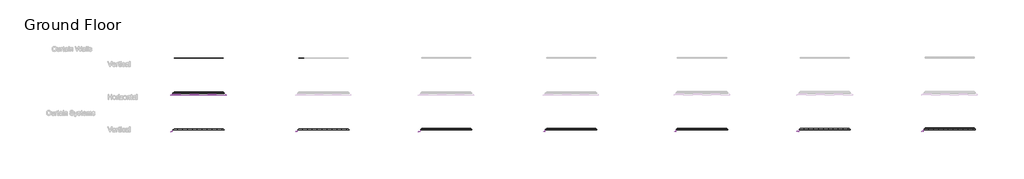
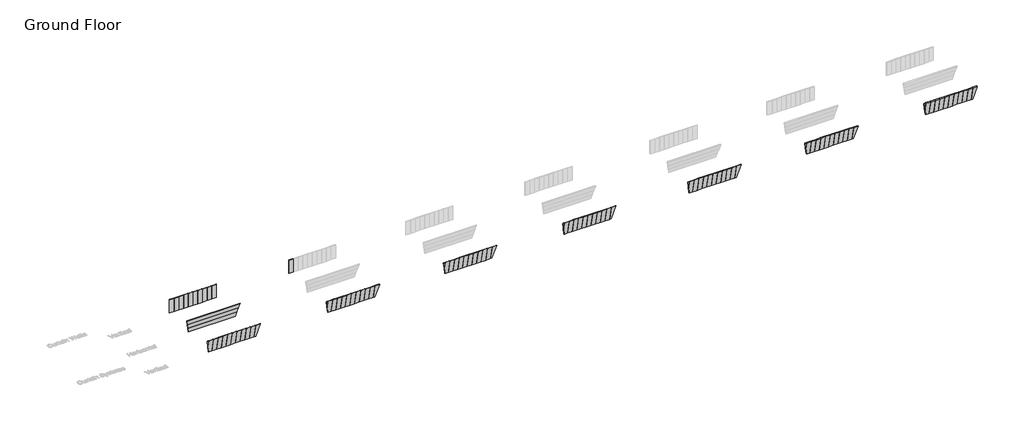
# One storey, part 1 of 12: 99 plates.
"""IFC4 building model written with IfcOpenShell, lengths in millimetres."""

from ifc_helpers import new_model, si_unit, origin, place, context, project, spatial, transform, mapped, element, save
from components import system_panel_713098a9, system_panel_15232523, system_panel_e1012d11, system_panel_ba92e759, system_panel_8d9bcd60, system_panel_b93e07dd, system_panel_ced8f9d4, system_panel_d58b1396, system_panel_276d5853, system_panel_b8428c64, system_panel_244e55d7, system_panel_0e52adfc, system_panel_2103b3a6, system_panel_ce3216b0, system_panel_0e282976, system_panel_e06f3d7a, system_panel_e961bc5a, system_panel_aa59b06d, system_panel_3f7d2aac, system_panel_99cabc98, system_panel_110e811f, system_panel_6bba82fc, system_panel_1b485f75, system_panel_cb7dd1a5, system_panel_cee82647, system_panel_2a0c4a62, system_panel_820816a4, system_panel_d4aeffd6, system_panel_145727ce, system_panel_42f74830, system_panel_000577c3, system_panel_8c28efb0, system_panel_4acd45eb, system_panel_72fa3ca7

model = new_model("IFC4")

# Units and contexts
model_context = context("Model", 3, world=origin())
ifc_project = project(units=[si_unit("LENGTHUNIT", "METRE", prefix="MILLI")], contexts=[model_context])

# Site, building, storey
site = spatial("IfcSite", under=ifc_project)
building = spatial("IfcBuilding", under=site)
storey = spatial("IfcBuildingStorey", under=building, Name="Ground Floor", Elevation=0.0)

# Plates
placement = place(None, origin())
system_panel_shape = system_panel_713098a9(model_context)
element("IfcPlate", 1, ObjectType="System Panel : Equitilt_50mm_Plain_Surfmist", at=placement, inside=storey, context=model_context, shape_type="MappedRepresentation", body=[
    mapped(system_panel_shape, transform((4729.2463003, 2025.9321053, 0.0), x_axis=(-1.0, 0.0, 0.0), y_axis=(0.0, -0.978268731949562, -0.20734099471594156), z_axis=(0.0, -0.20734099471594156, 0.978268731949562))),
])
system_panel_2_shape = system_panel_15232523(model_context)
element("IfcPlate", 2, ObjectType="System Panel : Equitilt_50mm_Plain_Surfmist", at=placement, inside=storey, context=model_context, shape_type="MappedRepresentation", body=[
    mapped(system_panel_2_shape, transform((4729.2463003, 1777.1229116, 1173.9224783), x_axis=(-1.0, 0.0, 0.0), y_axis=(0.0, -0.978268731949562, -0.20734099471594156), z_axis=(0.0, -0.20734099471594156, 0.978268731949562))),
])
system_panel_3_shape = system_panel_e1012d11(model_context)
element("IfcPlate", 3, ObjectType="System Panel : Equitilt_50mm_Plain_Surfmist", at=placement, inside=storey, context=model_context, shape_type="MappedRepresentation", body=[
    mapped(system_panel_3_shape, transform((4729.2463003, 1528.313718, 2347.8449567), x_axis=(-1.0, 0.0, 0.0), y_axis=(0.0, -0.978268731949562, -0.20734099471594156), z_axis=(0.0, -0.20734099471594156, 0.978268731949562))),
])
system_panel_4_shape = system_panel_ba92e759(model_context)
element("IfcPlate", 4, ObjectType="System Panel : Equitilt_50mm_Plain_Surfmist", at=placement, inside=storey, context=model_context, shape_type="MappedRepresentation", body=[
    mapped(system_panel_4_shape, transform((4729.2463003, 1279.5045243, 3521.767435), x_axis=(-1.0, 0.0, 0.0), y_axis=(0.0, -0.978268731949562, -0.20734099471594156), z_axis=(0.0, -0.20734099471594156, 0.978268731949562))),
])
system_panel_5_shape = system_panel_8d9bcd60(model_context)
element("IfcPlate", 5, ObjectType="System Panel : Equitilt_50mm_Plain_Surfmist", at=placement, inside=storey, context=model_context, shape_type="MappedRepresentation", body=[
    mapped(system_panel_5_shape, transform((10929.2463003, -6974.0678947, 0.0), x_axis=(-1.0, 0.0, 0.0), y_axis=(0.0, -0.978268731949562, -0.20734099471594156), z_axis=(0.0, -0.20734099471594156, 0.978268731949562))),
])
system_panel_6_shape = system_panel_b93e07dd(model_context)
element("IfcPlate", 6, ObjectType="System Panel : Equitilt_50mm_Plain_Surfmist", at=placement, inside=storey, context=model_context, shape_type="MappedRepresentation", body=[
    mapped(system_panel_6_shape, transform((9729.2463003, -6974.0678947, 0.0), x_axis=(-1.0, 0.0, 0.0), y_axis=(0.0, -0.978268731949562, -0.20734099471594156), z_axis=(0.0, -0.20734099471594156, 0.978268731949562))),
])
element("IfcPlate", 7, ObjectType="System Panel : Equitilt_50mm_Plain_Surfmist", at=placement, inside=storey, context=model_context, shape_type="MappedRepresentation", body=[
    mapped(system_panel_6_shape, transform((8529.2463003, -6974.0678947, 0.0), x_axis=(-1.0, 0.0, 0.0), y_axis=(0.0, -0.978268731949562, -0.20734099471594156), z_axis=(0.0, -0.20734099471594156, 0.978268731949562))),
])
element("IfcPlate", 8, ObjectType="System Panel : Equitilt_50mm_Plain_Surfmist", at=placement, inside=storey, context=model_context, shape_type="MappedRepresentation", body=[
    mapped(system_panel_6_shape, transform((7329.2463003, -6974.0678947, 0.0), x_axis=(-1.0, 0.0, 0.0), y_axis=(0.0, -0.978268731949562, -0.20734099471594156), z_axis=(0.0, -0.20734099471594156, 0.978268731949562))),
])
element("IfcPlate", 9, ObjectType="System Panel : Equitilt_50mm_Plain_Surfmist", at=placement, inside=storey, context=model_context, shape_type="MappedRepresentation", body=[
    mapped(system_panel_6_shape, transform((6129.2463003, -6974.0678947, 0.0), x_axis=(-1.0, 0.0, 0.0), y_axis=(0.0, -0.978268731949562, -0.20734099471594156), z_axis=(0.0, -0.20734099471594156, 0.978268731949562))),
])
element("IfcPlate", 10, ObjectType="System Panel : Equitilt_50mm_Plain_Surfmist", at=placement, inside=storey, context=model_context, shape_type="MappedRepresentation", body=[
    mapped(system_panel_6_shape, transform((4929.2463003, -6974.0678947, 0.0), x_axis=(-1.0, 0.0, 0.0), y_axis=(0.0, -0.978268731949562, -0.20734099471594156), z_axis=(0.0, -0.20734099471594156, 0.978268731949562))),
])
element("IfcPlate", 11, ObjectType="System Panel : Equitilt_50mm_Plain_Surfmist", at=placement, inside=storey, context=model_context, shape_type="MappedRepresentation", body=[
    mapped(system_panel_6_shape, transform((3729.2463003, -6974.0678947, 0.0), x_axis=(-1.0, 0.0, 0.0), y_axis=(0.0, -0.978268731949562, -0.20734099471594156), z_axis=(0.0, -0.20734099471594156, 0.978268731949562))),
])
element("IfcPlate", 12, ObjectType="System Panel : Equitilt_50mm_Plain_Surfmist", at=placement, inside=storey, context=model_context, shape_type="MappedRepresentation", body=[
    mapped(system_panel_6_shape, transform((2529.2463003, -6974.0678947, 0.0), x_axis=(-1.0, 0.0, 0.0), y_axis=(0.0, -0.978268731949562, -0.20734099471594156), z_axis=(0.0, -0.20734099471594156, 0.978268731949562))),
])
element("IfcPlate", 13, ObjectType="System Panel : Equitilt_50mm_Plain_Surfmist", at=placement, inside=storey, context=model_context, shape_type="MappedRepresentation", body=[
    mapped(system_panel_6_shape, transform((1329.2463003, -6974.0678947, 0.0), x_axis=(-1.0, 0.0, 0.0), y_axis=(0.0, -0.978268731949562, -0.20734099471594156), z_axis=(0.0, -0.20734099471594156, 0.978268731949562))),
])
element("IfcPlate", 14, ObjectType="System Panel : Equitilt_50mm_Plain_Surfmist", at=placement, inside=storey, context=model_context, shape_type="MappedRepresentation", body=[
    mapped(system_panel_6_shape, transform((129.2463003, -6974.0678947, 0.0), x_axis=(-1.0, 0.0, 0.0), y_axis=(0.0, -0.978268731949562, -0.20734099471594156), z_axis=(0.0, -0.20734099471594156, 0.978268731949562))),
])
system_panel_7_shape = system_panel_ced8f9d4(model_context)
element("IfcPlate", 15, ObjectType="System Panel : Equitilt_50mm_Plain_Surfmist", at=placement, inside=storey, context=model_context, shape_type="MappedRepresentation", body=[
    mapped(system_panel_7_shape, transform((-1070.7536997, -6974.0678947, 0.0), x_axis=(-1.0, 0.0, 0.0), y_axis=(0.0, -0.978268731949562, -0.20734099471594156), z_axis=(0.0, -0.20734099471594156, 0.978268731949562))),
])
system_panel_8_shape = system_panel_d58b1396(model_context)
element("IfcPlate", 16, ObjectType="System Panel : Equitilt_50mm_Plain_Surfmist", at=placement, inside=storey, context=model_context, shape_type="MappedRepresentation", body=[
    mapped(system_panel_8_shape, transform((-1870.7536997, -7355.5722588, 1800.0), x_axis=(-1.0, 0.0, 0.0), y_axis=(0.0, -0.978268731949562, -0.20734099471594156), z_axis=(0.0, -0.20734099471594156, 0.978268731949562))),
])
system_panel_9_shape = system_panel_276d5853(model_context)
element("IfcPlate", 17, ObjectType="System Panel : Equitilt_75mm_Plain_Surfmist", at=placement, inside=storey, context=model_context, shape_type="MappedRepresentation", body=[
    mapped(system_panel_9_shape, transform((41429.2463003, -6974.0678947, 0.0), x_axis=(-1.0, 0.0, 0.0), y_axis=(0.0, -0.978268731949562, -0.20734099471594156), z_axis=(0.0, -0.20734099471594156, 0.978268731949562))),
])
system_panel_10_shape = system_panel_b8428c64(model_context)
element("IfcPlate", 18, ObjectType="System Panel : Equitilt_75mm_Plain_Surfmist", at=placement, inside=storey, context=model_context, shape_type="MappedRepresentation", body=[
    mapped(system_panel_10_shape, transform((40229.2463003, -6974.0678947, 0.0), x_axis=(-1.0, 0.0, 0.0), y_axis=(0.0, -0.978268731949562, -0.20734099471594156), z_axis=(0.0, -0.20734099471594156, 0.978268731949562))),
])
element("IfcPlate", 19, ObjectType="System Panel : Equitilt_75mm_Plain_Surfmist", at=placement, inside=storey, context=model_context, shape_type="MappedRepresentation", body=[
    mapped(system_panel_10_shape, transform((39029.2463003, -6974.0678947, 0.0), x_axis=(-1.0, 0.0, 0.0), y_axis=(0.0, -0.978268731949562, -0.20734099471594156), z_axis=(0.0, -0.20734099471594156, 0.978268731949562))),
])
element("IfcPlate", 20, ObjectType="System Panel : Equitilt_75mm_Plain_Surfmist", at=placement, inside=storey, context=model_context, shape_type="MappedRepresentation", body=[
    mapped(system_panel_10_shape, transform((37829.2463003, -6974.0678947, 0.0), x_axis=(-1.0, 0.0, 0.0), y_axis=(0.0, -0.978268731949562, -0.20734099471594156), z_axis=(0.0, -0.20734099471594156, 0.978268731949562))),
])
element("IfcPlate", 21, ObjectType="System Panel : Equitilt_75mm_Plain_Surfmist", at=placement, inside=storey, context=model_context, shape_type="MappedRepresentation", body=[
    mapped(system_panel_10_shape, transform((36629.2463003, -6974.0678947, 0.0), x_axis=(-1.0, 0.0, 0.0), y_axis=(0.0, -0.978268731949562, -0.20734099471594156), z_axis=(0.0, -0.20734099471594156, 0.978268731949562))),
])
element("IfcPlate", 22, ObjectType="System Panel : Equitilt_75mm_Plain_Surfmist", at=placement, inside=storey, context=model_context, shape_type="MappedRepresentation", body=[
    mapped(system_panel_10_shape, transform((35429.2463003, -6974.0678947, 0.0), x_axis=(-1.0, 0.0, 0.0), y_axis=(0.0, -0.978268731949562, -0.20734099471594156), z_axis=(0.0, -0.20734099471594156, 0.978268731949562))),
])
element("IfcPlate", 23, ObjectType="System Panel : Equitilt_75mm_Plain_Surfmist", at=placement, inside=storey, context=model_context, shape_type="MappedRepresentation", body=[
    mapped(system_panel_10_shape, transform((34229.2463003, -6974.0678947, 0.0), x_axis=(-1.0, 0.0, 0.0), y_axis=(0.0, -0.978268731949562, -0.20734099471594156), z_axis=(0.0, -0.20734099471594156, 0.978268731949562))),
])
element("IfcPlate", 24, ObjectType="System Panel : Equitilt_75mm_Plain_Surfmist", at=placement, inside=storey, context=model_context, shape_type="MappedRepresentation", body=[
    mapped(system_panel_10_shape, transform((33029.2463003, -6974.0678947, 0.0), x_axis=(-1.0, 0.0, 0.0), y_axis=(0.0, -0.978268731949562, -0.20734099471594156), z_axis=(0.0, -0.20734099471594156, 0.978268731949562))),
])
element("IfcPlate", 25, ObjectType="System Panel : Equitilt_75mm_Plain_Surfmist", at=placement, inside=storey, context=model_context, shape_type="MappedRepresentation", body=[
    mapped(system_panel_10_shape, transform((31829.2463003, -6974.0678947, 0.0), x_axis=(-1.0, 0.0, 0.0), y_axis=(0.0, -0.978268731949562, -0.20734099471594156), z_axis=(0.0, -0.20734099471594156, 0.978268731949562))),
])
element("IfcPlate", 26, ObjectType="System Panel : Equitilt_75mm_Plain_Surfmist", at=placement, inside=storey, context=model_context, shape_type="MappedRepresentation", body=[
    mapped(system_panel_10_shape, transform((30629.2463003, -6974.0678947, 0.0), x_axis=(-1.0, 0.0, 0.0), y_axis=(0.0, -0.978268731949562, -0.20734099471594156), z_axis=(0.0, -0.20734099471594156, 0.978268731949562))),
])
system_panel_11_shape = system_panel_244e55d7(model_context)
element("IfcPlate", 27, ObjectType="System Panel : Equitilt_75mm_Plain_Surfmist", at=placement, inside=storey, context=model_context, shape_type="MappedRepresentation", body=[
    mapped(system_panel_11_shape, transform((29429.2463003, -6974.0678947, 0.0), x_axis=(-1.0, 0.0, 0.0), y_axis=(0.0, -0.978268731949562, -0.20734099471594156), z_axis=(0.0, -0.20734099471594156, 0.978268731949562))),
])
system_panel_12_shape = system_panel_0e52adfc(model_context)
element("IfcPlate", 28, ObjectType="System Panel : Equitilt_75mm_Plain_Surfmist", at=placement, inside=storey, context=model_context, shape_type="MappedRepresentation", body=[
    mapped(system_panel_12_shape, transform((28629.2463003, -7355.5722588, 1800.0), x_axis=(-1.0, 0.0, 0.0), y_axis=(0.0, -0.978268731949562, -0.20734099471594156), z_axis=(0.0, -0.20734099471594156, 0.978268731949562))),
])
system_panel_13_shape = system_panel_2103b3a6(model_context)
element("IfcPlate", 29, ObjectType="System Panel : Equitilt_100mm_Plain_Surfmist", at=placement, inside=storey, context=model_context, shape_type="MappedRepresentation", body=[
    mapped(system_panel_13_shape, transform((71429.2463003, -6974.0678947, 0.0), x_axis=(-1.0, 0.0, 0.0), y_axis=(0.0, -0.978268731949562, -0.20734099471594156), z_axis=(0.0, -0.20734099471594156, 0.978268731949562))),
])
system_panel_14_shape = system_panel_ce3216b0(model_context)
element("IfcPlate", 30, ObjectType="System Panel : Equitilt_100mm_Plain_Surfmist", at=placement, inside=storey, context=model_context, shape_type="MappedRepresentation", body=[
    mapped(system_panel_14_shape, transform((70229.2463003, -6974.0678947, 0.0), x_axis=(-1.0, 0.0, 0.0), y_axis=(0.0, -0.978268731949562, -0.20734099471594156), z_axis=(0.0, -0.20734099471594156, 0.978268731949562))),
])
element("IfcPlate", 31, ObjectType="System Panel : Equitilt_100mm_Plain_Surfmist", at=placement, inside=storey, context=model_context, shape_type="MappedRepresentation", body=[
    mapped(system_panel_14_shape, transform((69029.2463003, -6974.0678947, 0.0), x_axis=(-1.0, 0.0, 0.0), y_axis=(0.0, -0.978268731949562, -0.20734099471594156), z_axis=(0.0, -0.20734099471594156, 0.978268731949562))),
])
element("IfcPlate", 32, ObjectType="System Panel : Equitilt_100mm_Plain_Surfmist", at=placement, inside=storey, context=model_context, shape_type="MappedRepresentation", body=[
    mapped(system_panel_14_shape, transform((67829.2463003, -6974.0678947, 0.0), x_axis=(-1.0, 0.0, 0.0), y_axis=(0.0, -0.978268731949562, -0.20734099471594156), z_axis=(0.0, -0.20734099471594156, 0.978268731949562))),
])
element("IfcPlate", 33, ObjectType="System Panel : Equitilt_100mm_Plain_Surfmist", at=placement, inside=storey, context=model_context, shape_type="MappedRepresentation", body=[
    mapped(system_panel_14_shape, transform((66629.2463003, -6974.0678947, 0.0), x_axis=(-1.0, 0.0, 0.0), y_axis=(0.0, -0.978268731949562, -0.20734099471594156), z_axis=(0.0, -0.20734099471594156, 0.978268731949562))),
])
element("IfcPlate", 34, ObjectType="System Panel : Equitilt_100mm_Plain_Surfmist", at=placement, inside=storey, context=model_context, shape_type="MappedRepresentation", body=[
    mapped(system_panel_14_shape, transform((65429.2463003, -6974.0678947, 0.0), x_axis=(-1.0, 0.0, 0.0), y_axis=(0.0, -0.978268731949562, -0.20734099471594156), z_axis=(0.0, -0.20734099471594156, 0.978268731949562))),
])
element("IfcPlate", 35, ObjectType="System Panel : Equitilt_100mm_Plain_Surfmist", at=placement, inside=storey, context=model_context, shape_type="MappedRepresentation", body=[
    mapped(system_panel_14_shape, transform((64229.2463003, -6974.0678947, 0.0), x_axis=(-1.0, 0.0, 0.0), y_axis=(0.0, -0.978268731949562, -0.20734099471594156), z_axis=(0.0, -0.20734099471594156, 0.978268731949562))),
])
element("IfcPlate", 36, ObjectType="System Panel : Equitilt_100mm_Plain_Surfmist", at=placement, inside=storey, context=model_context, shape_type="MappedRepresentation", body=[
    mapped(system_panel_14_shape, transform((63029.2463003, -6974.0678947, 0.0), x_axis=(-1.0, 0.0, 0.0), y_axis=(0.0, -0.978268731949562, -0.20734099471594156), z_axis=(0.0, -0.20734099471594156, 0.978268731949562))),
])
element("IfcPlate", 37, ObjectType="System Panel : Equitilt_100mm_Plain_Surfmist", at=placement, inside=storey, context=model_context, shape_type="MappedRepresentation", body=[
    mapped(system_panel_14_shape, transform((61829.2463003, -6974.0678947, 0.0), x_axis=(-1.0, 0.0, 0.0), y_axis=(0.0, -0.978268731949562, -0.20734099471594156), z_axis=(0.0, -0.20734099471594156, 0.978268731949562))),
])
element("IfcPlate", 38, ObjectType="System Panel : Equitilt_100mm_Plain_Surfmist", at=placement, inside=storey, context=model_context, shape_type="MappedRepresentation", body=[
    mapped(system_panel_14_shape, transform((60629.2463003, -6974.0678947, 0.0), x_axis=(-1.0, 0.0, 0.0), y_axis=(0.0, -0.978268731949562, -0.20734099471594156), z_axis=(0.0, -0.20734099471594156, 0.978268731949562))),
])
system_panel_15_shape = system_panel_0e282976(model_context)
element("IfcPlate", 39, ObjectType="System Panel : Equitilt_100mm_Plain_Surfmist", at=placement, inside=storey, context=model_context, shape_type="MappedRepresentation", body=[
    mapped(system_panel_15_shape, transform((59429.2463003, -6974.0678947, 0.0), x_axis=(-1.0, 0.0, 0.0), y_axis=(0.0, -0.978268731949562, -0.20734099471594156), z_axis=(0.0, -0.20734099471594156, 0.978268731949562))),
])
system_panel_16_shape = system_panel_e06f3d7a(model_context)
element("IfcPlate", 40, ObjectType="System Panel : Equitilt_100mm_Plain_Surfmist", at=placement, inside=storey, context=model_context, shape_type="MappedRepresentation", body=[
    mapped(system_panel_16_shape, transform((58629.2463003, -7355.5722588, 1800.0), x_axis=(-1.0, 0.0, 0.0), y_axis=(0.0, -0.978268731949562, -0.20734099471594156), z_axis=(0.0, -0.20734099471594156, 0.978268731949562))),
])
system_panel_17_shape = system_panel_e961bc5a(model_context)
element("IfcPlate", 41, ObjectType="System Panel : Equitilt_125mm_Plain_Surfmist", at=placement, inside=storey, context=model_context, shape_type="MappedRepresentation", body=[
    mapped(system_panel_17_shape, transform((101929.2463003, -6974.0678947, 0.0), x_axis=(-1.0, 0.0, 0.0), y_axis=(0.0, -0.978268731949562, -0.20734099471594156), z_axis=(0.0, -0.20734099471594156, 0.978268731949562))),
])
system_panel_18_shape = system_panel_aa59b06d(model_context)
element("IfcPlate", 42, ObjectType="System Panel : Equitilt_125mm_Plain_Surfmist", at=placement, inside=storey, context=model_context, shape_type="MappedRepresentation", body=[
    mapped(system_panel_18_shape, transform((100729.2463003, -6974.0678947, 0.0), x_axis=(-1.0, 0.0, 0.0), y_axis=(0.0, -0.978268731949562, -0.20734099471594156), z_axis=(0.0, -0.20734099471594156, 0.978268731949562))),
])
element("IfcPlate", 43, ObjectType="System Panel : Equitilt_125mm_Plain_Surfmist", at=placement, inside=storey, context=model_context, shape_type="MappedRepresentation", body=[
    mapped(system_panel_18_shape, transform((99529.2463003, -6974.0678947, 0.0), x_axis=(-1.0, 0.0, 0.0), y_axis=(0.0, -0.978268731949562, -0.20734099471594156), z_axis=(0.0, -0.20734099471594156, 0.978268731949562))),
])
element("IfcPlate", 44, ObjectType="System Panel : Equitilt_125mm_Plain_Surfmist", at=placement, inside=storey, context=model_context, shape_type="MappedRepresentation", body=[
    mapped(system_panel_18_shape, transform((98329.2463003, -6974.0678947, 0.0), x_axis=(-1.0, 0.0, 0.0), y_axis=(0.0, -0.978268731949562, -0.20734099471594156), z_axis=(0.0, -0.20734099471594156, 0.978268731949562))),
])
element("IfcPlate", 45, ObjectType="System Panel : Equitilt_125mm_Plain_Surfmist", at=placement, inside=storey, context=model_context, shape_type="MappedRepresentation", body=[
    mapped(system_panel_18_shape, transform((97129.2463003, -6974.0678947, 0.0), x_axis=(-1.0, 0.0, 0.0), y_axis=(0.0, -0.978268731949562, -0.20734099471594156), z_axis=(0.0, -0.20734099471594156, 0.978268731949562))),
])
element("IfcPlate", 46, ObjectType="System Panel : Equitilt_125mm_Plain_Surfmist", at=placement, inside=storey, context=model_context, shape_type="MappedRepresentation", body=[
    mapped(system_panel_18_shape, transform((95929.2463003, -6974.0678947, 0.0), x_axis=(-1.0, 0.0, 0.0), y_axis=(0.0, -0.978268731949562, -0.20734099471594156), z_axis=(0.0, -0.20734099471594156, 0.978268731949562))),
])
element("IfcPlate", 47, ObjectType="System Panel : Equitilt_125mm_Plain_Surfmist", at=placement, inside=storey, context=model_context, shape_type="MappedRepresentation", body=[
    mapped(system_panel_18_shape, transform((94729.2463003, -6974.0678947, 0.0), x_axis=(-1.0, 0.0, 0.0), y_axis=(0.0, -0.978268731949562, -0.20734099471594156), z_axis=(0.0, -0.20734099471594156, 0.978268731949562))),
])
element("IfcPlate", 48, ObjectType="System Panel : Equitilt_125mm_Plain_Surfmist", at=placement, inside=storey, context=model_context, shape_type="MappedRepresentation", body=[
    mapped(system_panel_18_shape, transform((93529.2463003, -6974.0678947, 0.0), x_axis=(-1.0, 0.0, 0.0), y_axis=(0.0, -0.978268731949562, -0.20734099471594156), z_axis=(0.0, -0.20734099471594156, 0.978268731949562))),
])
element("IfcPlate", 49, ObjectType="System Panel : Equitilt_125mm_Plain_Surfmist", at=placement, inside=storey, context=model_context, shape_type="MappedRepresentation", body=[
    mapped(system_panel_18_shape, transform((92329.2463003, -6974.0678947, 0.0), x_axis=(-1.0, 0.0, 0.0), y_axis=(0.0, -0.978268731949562, -0.20734099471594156), z_axis=(0.0, -0.20734099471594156, 0.978268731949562))),
])
element("IfcPlate", 50, ObjectType="System Panel : Equitilt_125mm_Plain_Surfmist", at=placement, inside=storey, context=model_context, shape_type="MappedRepresentation", body=[
    mapped(system_panel_18_shape, transform((91129.2463003, -6974.0678947, 0.0), x_axis=(-1.0, 0.0, 0.0), y_axis=(0.0, -0.978268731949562, -0.20734099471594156), z_axis=(0.0, -0.20734099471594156, 0.978268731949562))),
])
system_panel_19_shape = system_panel_3f7d2aac(model_context)
element("IfcPlate", 51, ObjectType="System Panel : Equitilt_125mm_Plain_Surfmist", at=placement, inside=storey, context=model_context, shape_type="MappedRepresentation", body=[
    mapped(system_panel_19_shape, transform((89929.2463003, -6974.0678947, 0.0), x_axis=(-1.0, 0.0, 0.0), y_axis=(0.0, -0.978268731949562, -0.20734099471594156), z_axis=(0.0, -0.20734099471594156, 0.978268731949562))),
])
system_panel_20_shape = system_panel_99cabc98(model_context)
element("IfcPlate", 52, ObjectType="System Panel : Equitilt_125mm_Plain_Surfmist", at=placement, inside=storey, context=model_context, shape_type="MappedRepresentation", body=[
    mapped(system_panel_20_shape, transform((89129.2463003, -7355.5722588, 1800.0), x_axis=(-1.0, 0.0, 0.0), y_axis=(0.0, -0.978268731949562, -0.20734099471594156), z_axis=(0.0, -0.20734099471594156, 0.978268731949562))),
])
system_panel_21_shape = system_panel_110e811f(model_context)
element("IfcPlate", 53, ObjectType="System Panel : Equitilt_150mm_Plain_Surfmist", at=placement, inside=storey, context=model_context, shape_type="MappedRepresentation", body=[
    mapped(system_panel_21_shape, transform((133929.2463003, -6974.0678947, 0.0), x_axis=(-1.0, 0.0, 0.0), y_axis=(0.0, -0.978268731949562, -0.20734099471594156), z_axis=(0.0, -0.20734099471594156, 0.978268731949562))),
])
system_panel_22_shape = system_panel_6bba82fc(model_context)
element("IfcPlate", 54, ObjectType="System Panel : Equitilt_150mm_Plain_Surfmist", at=placement, inside=storey, context=model_context, shape_type="MappedRepresentation", body=[
    mapped(system_panel_22_shape, transform((132729.2463003, -6974.0678947, 0.0), x_axis=(-1.0, 0.0, 0.0), y_axis=(0.0, -0.978268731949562, -0.20734099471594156), z_axis=(0.0, -0.20734099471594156, 0.978268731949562))),
])
element("IfcPlate", 55, ObjectType="System Panel : Equitilt_150mm_Plain_Surfmist", at=placement, inside=storey, context=model_context, shape_type="MappedRepresentation", body=[
    mapped(system_panel_22_shape, transform((131529.2463003, -6974.0678947, 0.0), x_axis=(-1.0, 0.0, 0.0), y_axis=(0.0, -0.978268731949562, -0.20734099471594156), z_axis=(0.0, -0.20734099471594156, 0.978268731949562))),
])
element("IfcPlate", 56, ObjectType="System Panel : Equitilt_150mm_Plain_Surfmist", at=placement, inside=storey, context=model_context, shape_type="MappedRepresentation", body=[
    mapped(system_panel_22_shape, transform((130329.2463003, -6974.0678947, 0.0), x_axis=(-1.0, 0.0, 0.0), y_axis=(0.0, -0.978268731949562, -0.20734099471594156), z_axis=(0.0, -0.20734099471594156, 0.978268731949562))),
])
element("IfcPlate", 57, ObjectType="System Panel : Equitilt_150mm_Plain_Surfmist", at=placement, inside=storey, context=model_context, shape_type="MappedRepresentation", body=[
    mapped(system_panel_22_shape, transform((129129.2463003, -6974.0678947, 0.0), x_axis=(-1.0, 0.0, 0.0), y_axis=(0.0, -0.978268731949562, -0.20734099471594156), z_axis=(0.0, -0.20734099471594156, 0.978268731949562))),
])
element("IfcPlate", 58, ObjectType="System Panel : Equitilt_150mm_Plain_Surfmist", at=placement, inside=storey, context=model_context, shape_type="MappedRepresentation", body=[
    mapped(system_panel_22_shape, transform((127929.2463003, -6974.0678947, 0.0), x_axis=(-1.0, 0.0, 0.0), y_axis=(0.0, -0.978268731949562, -0.20734099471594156), z_axis=(0.0, -0.20734099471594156, 0.978268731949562))),
])
element("IfcPlate", 59, ObjectType="System Panel : Equitilt_150mm_Plain_Surfmist", at=placement, inside=storey, context=model_context, shape_type="MappedRepresentation", body=[
    mapped(system_panel_22_shape, transform((126729.2463003, -6974.0678947, 0.0), x_axis=(-1.0, 0.0, 0.0), y_axis=(0.0, -0.978268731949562, -0.20734099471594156), z_axis=(0.0, -0.20734099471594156, 0.978268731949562))),
])
element("IfcPlate", 60, ObjectType="System Panel : Equitilt_150mm_Plain_Surfmist", at=placement, inside=storey, context=model_context, shape_type="MappedRepresentation", body=[
    mapped(system_panel_22_shape, transform((125529.2463003, -6974.0678947, 0.0), x_axis=(-1.0, 0.0, 0.0), y_axis=(0.0, -0.978268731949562, -0.20734099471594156), z_axis=(0.0, -0.20734099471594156, 0.978268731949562))),
])
element("IfcPlate", 61, ObjectType="System Panel : Equitilt_150mm_Plain_Surfmist", at=placement, inside=storey, context=model_context, shape_type="MappedRepresentation", body=[
    mapped(system_panel_22_shape, transform((124329.2463003, -6974.0678947, 0.0), x_axis=(-1.0, 0.0, 0.0), y_axis=(0.0, -0.978268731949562, -0.20734099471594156), z_axis=(0.0, -0.20734099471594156, 0.978268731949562))),
])
element("IfcPlate", 62, ObjectType="System Panel : Equitilt_150mm_Plain_Surfmist", at=placement, inside=storey, context=model_context, shape_type="MappedRepresentation", body=[
    mapped(system_panel_22_shape, transform((123129.2463003, -6974.0678947, 0.0), x_axis=(-1.0, 0.0, 0.0), y_axis=(0.0, -0.978268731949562, -0.20734099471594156), z_axis=(0.0, -0.20734099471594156, 0.978268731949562))),
])
system_panel_23_shape = system_panel_1b485f75(model_context)
element("IfcPlate", 63, ObjectType="System Panel : Equitilt_150mm_Plain_Surfmist", at=placement, inside=storey, context=model_context, shape_type="MappedRepresentation", body=[
    mapped(system_panel_23_shape, transform((121929.2463003, -6974.0678947, 0.0), x_axis=(-1.0, 0.0, 0.0), y_axis=(0.0, -0.978268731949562, -0.20734099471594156), z_axis=(0.0, -0.20734099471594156, 0.978268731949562))),
])
system_panel_24_shape = system_panel_cb7dd1a5(model_context)
element("IfcPlate", 64, ObjectType="System Panel : Equitilt_150mm_Plain_Surfmist", at=placement, inside=storey, context=model_context, shape_type="MappedRepresentation", body=[
    mapped(system_panel_24_shape, transform((121129.2463003, -7355.5722588, 1800.0), x_axis=(-1.0, 0.0, 0.0), y_axis=(0.0, -0.978268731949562, -0.20734099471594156), z_axis=(0.0, -0.20734099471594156, 0.978268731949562))),
])
system_panel_25_shape = system_panel_cee82647(model_context)
element("IfcPlate", 65, ObjectType="System Panel : Equitilt_200mm_Plain_Surfmist", at=placement, inside=storey, context=model_context, shape_type="MappedRepresentation", body=[
    mapped(system_panel_25_shape, transform((163929.2463003, -6974.0678947, 0.0), x_axis=(-1.0, 0.0, 0.0), y_axis=(0.0, -0.978268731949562, -0.20734099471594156), z_axis=(0.0, -0.20734099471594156, 0.978268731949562))),
])
system_panel_26_shape = system_panel_2a0c4a62(model_context)
element("IfcPlate", 66, ObjectType="System Panel : Equitilt_200mm_Plain_Surfmist", at=placement, inside=storey, context=model_context, shape_type="MappedRepresentation", body=[
    mapped(system_panel_26_shape, transform((162729.2463003, -6974.0678947, 0.0), x_axis=(-1.0, 0.0, 0.0), y_axis=(0.0, -0.978268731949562, -0.20734099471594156), z_axis=(0.0, -0.20734099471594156, 0.978268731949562))),
])
element("IfcPlate", 67, ObjectType="System Panel : Equitilt_200mm_Plain_Surfmist", at=placement, inside=storey, context=model_context, shape_type="MappedRepresentation", body=[
    mapped(system_panel_26_shape, transform((161529.2463003, -6974.0678947, 0.0), x_axis=(-1.0, 0.0, 0.0), y_axis=(0.0, -0.978268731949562, -0.20734099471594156), z_axis=(0.0, -0.20734099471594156, 0.978268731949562))),
])
element("IfcPlate", 68, ObjectType="System Panel : Equitilt_200mm_Plain_Surfmist", at=placement, inside=storey, context=model_context, shape_type="MappedRepresentation", body=[
    mapped(system_panel_26_shape, transform((160329.2463003, -6974.0678947, 0.0), x_axis=(-1.0, 0.0, 0.0), y_axis=(0.0, -0.978268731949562, -0.20734099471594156), z_axis=(0.0, -0.20734099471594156, 0.978268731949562))),
])
element("IfcPlate", 69, ObjectType="System Panel : Equitilt_200mm_Plain_Surfmist", at=placement, inside=storey, context=model_context, shape_type="MappedRepresentation", body=[
    mapped(system_panel_26_shape, transform((159129.2463003, -6974.0678947, 0.0), x_axis=(-1.0, 0.0, 0.0), y_axis=(0.0, -0.978268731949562, -0.20734099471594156), z_axis=(0.0, -0.20734099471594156, 0.978268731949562))),
])
element("IfcPlate", 70, ObjectType="System Panel : Equitilt_200mm_Plain_Surfmist", at=placement, inside=storey, context=model_context, shape_type="MappedRepresentation", body=[
    mapped(system_panel_26_shape, transform((157929.2463003, -6974.0678947, 0.0), x_axis=(-1.0, 0.0, 0.0), y_axis=(0.0, -0.978268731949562, -0.20734099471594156), z_axis=(0.0, -0.20734099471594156, 0.978268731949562))),
])
element("IfcPlate", 71, ObjectType="System Panel : Equitilt_200mm_Plain_Surfmist", at=placement, inside=storey, context=model_context, shape_type="MappedRepresentation", body=[
    mapped(system_panel_26_shape, transform((156729.2463003, -6974.0678947, 0.0), x_axis=(-1.0, 0.0, 0.0), y_axis=(0.0, -0.978268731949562, -0.20734099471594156), z_axis=(0.0, -0.20734099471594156, 0.978268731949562))),
])
element("IfcPlate", 72, ObjectType="System Panel : Equitilt_200mm_Plain_Surfmist", at=placement, inside=storey, context=model_context, shape_type="MappedRepresentation", body=[
    mapped(system_panel_26_shape, transform((155529.2463003, -6974.0678947, 0.0), x_axis=(-1.0, 0.0, 0.0), y_axis=(0.0, -0.978268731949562, -0.20734099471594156), z_axis=(0.0, -0.20734099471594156, 0.978268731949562))),
])
element("IfcPlate", 73, ObjectType="System Panel : Equitilt_200mm_Plain_Surfmist", at=placement, inside=storey, context=model_context, shape_type="MappedRepresentation", body=[
    mapped(system_panel_26_shape, transform((154329.2463003, -6974.0678947, 0.0), x_axis=(-1.0, 0.0, 0.0), y_axis=(0.0, -0.978268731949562, -0.20734099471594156), z_axis=(0.0, -0.20734099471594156, 0.978268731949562))),
])
element("IfcPlate", 74, ObjectType="System Panel : Equitilt_200mm_Plain_Surfmist", at=placement, inside=storey, context=model_context, shape_type="MappedRepresentation", body=[
    mapped(system_panel_26_shape, transform((153129.2463003, -6974.0678947, 0.0), x_axis=(-1.0, 0.0, 0.0), y_axis=(0.0, -0.978268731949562, -0.20734099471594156), z_axis=(0.0, -0.20734099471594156, 0.978268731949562))),
])
system_panel_27_shape = system_panel_820816a4(model_context)
element("IfcPlate", 75, ObjectType="System Panel : Equitilt_200mm_Plain_Surfmist", at=placement, inside=storey, context=model_context, shape_type="MappedRepresentation", body=[
    mapped(system_panel_27_shape, transform((151929.2463003, -6974.0678947, 0.0), x_axis=(-1.0, 0.0, 0.0), y_axis=(0.0, -0.978268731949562, -0.20734099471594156), z_axis=(0.0, -0.20734099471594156, 0.978268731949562))),
])
system_panel_28_shape = system_panel_d4aeffd6(model_context)
element("IfcPlate", 76, ObjectType="System Panel : Equitilt_200mm_Plain_Surfmist", at=placement, inside=storey, context=model_context, shape_type="MappedRepresentation", body=[
    mapped(system_panel_28_shape, transform((151129.2463003, -7355.5722588, 1800.0), x_axis=(-1.0, 0.0, 0.0), y_axis=(0.0, -0.978268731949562, -0.20734099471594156), z_axis=(0.0, -0.20734099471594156, 0.978268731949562))),
])
system_panel_29_shape = system_panel_145727ce(model_context)
element("IfcPlate", 77, ObjectType="System Panel : Equitilt_250mm_Plain_Surfmist", at=placement, inside=storey, context=model_context, shape_type="MappedRepresentation", body=[
    mapped(system_panel_29_shape, transform((194429.2463003, -6974.0678947, 0.0), x_axis=(-1.0, 0.0, 0.0), y_axis=(0.0, -0.978268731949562, -0.20734099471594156), z_axis=(0.0, -0.20734099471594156, 0.978268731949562))),
])
system_panel_30_shape = system_panel_42f74830(model_context)
element("IfcPlate", 78, ObjectType="System Panel : Equitilt_250mm_Plain_Surfmist", at=placement, inside=storey, context=model_context, shape_type="MappedRepresentation", body=[
    mapped(system_panel_30_shape, transform((193229.2463003, -6974.0678947, 0.0), x_axis=(-1.0, 0.0, 0.0), y_axis=(0.0, -0.978268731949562, -0.20734099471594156), z_axis=(0.0, -0.20734099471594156, 0.978268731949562))),
])
element("IfcPlate", 79, ObjectType="System Panel : Equitilt_250mm_Plain_Surfmist", at=placement, inside=storey, context=model_context, shape_type="MappedRepresentation", body=[
    mapped(system_panel_30_shape, transform((192029.2463003, -6974.0678947, 0.0), x_axis=(-1.0, 0.0, 0.0), y_axis=(0.0, -0.978268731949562, -0.20734099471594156), z_axis=(0.0, -0.20734099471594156, 0.978268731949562))),
])
element("IfcPlate", 80, ObjectType="System Panel : Equitilt_250mm_Plain_Surfmist", at=placement, inside=storey, context=model_context, shape_type="MappedRepresentation", body=[
    mapped(system_panel_30_shape, transform((190829.2463003, -6974.0678947, 0.0), x_axis=(-1.0, 0.0, 0.0), y_axis=(0.0, -0.978268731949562, -0.20734099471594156), z_axis=(0.0, -0.20734099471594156, 0.978268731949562))),
])
element("IfcPlate", 81, ObjectType="System Panel : Equitilt_250mm_Plain_Surfmist", at=placement, inside=storey, context=model_context, shape_type="MappedRepresentation", body=[
    mapped(system_panel_30_shape, transform((189629.2463003, -6974.0678947, 0.0), x_axis=(-1.0, 0.0, 0.0), y_axis=(0.0, -0.978268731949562, -0.20734099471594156), z_axis=(0.0, -0.20734099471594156, 0.978268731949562))),
])
element("IfcPlate", 82, ObjectType="System Panel : Equitilt_250mm_Plain_Surfmist", at=placement, inside=storey, context=model_context, shape_type="MappedRepresentation", body=[
    mapped(system_panel_30_shape, transform((188429.2463003, -6974.0678947, 0.0), x_axis=(-1.0, 0.0, 0.0), y_axis=(0.0, -0.978268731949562, -0.20734099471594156), z_axis=(0.0, -0.20734099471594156, 0.978268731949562))),
])
element("IfcPlate", 83, ObjectType="System Panel : Equitilt_250mm_Plain_Surfmist", at=placement, inside=storey, context=model_context, shape_type="MappedRepresentation", body=[
    mapped(system_panel_30_shape, transform((187229.2463003, -6974.0678947, 0.0), x_axis=(-1.0, 0.0, 0.0), y_axis=(0.0, -0.978268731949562, -0.20734099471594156), z_axis=(0.0, -0.20734099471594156, 0.978268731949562))),
])
element("IfcPlate", 84, ObjectType="System Panel : Equitilt_250mm_Plain_Surfmist", at=placement, inside=storey, context=model_context, shape_type="MappedRepresentation", body=[
    mapped(system_panel_30_shape, transform((186029.2463003, -6974.0678947, 0.0), x_axis=(-1.0, 0.0, 0.0), y_axis=(0.0, -0.978268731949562, -0.20734099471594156), z_axis=(0.0, -0.20734099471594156, 0.978268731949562))),
])
element("IfcPlate", 85, ObjectType="System Panel : Equitilt_250mm_Plain_Surfmist", at=placement, inside=storey, context=model_context, shape_type="MappedRepresentation", body=[
    mapped(system_panel_30_shape, transform((184829.2463003, -6974.0678947, 0.0), x_axis=(-1.0, 0.0, 0.0), y_axis=(0.0, -0.978268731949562, -0.20734099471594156), z_axis=(0.0, -0.20734099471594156, 0.978268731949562))),
])
element("IfcPlate", 86, ObjectType="System Panel : Equitilt_250mm_Plain_Surfmist", at=placement, inside=storey, context=model_context, shape_type="MappedRepresentation", body=[
    mapped(system_panel_30_shape, transform((183629.2463003, -6974.0678947, 0.0), x_axis=(-1.0, 0.0, 0.0), y_axis=(0.0, -0.978268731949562, -0.20734099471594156), z_axis=(0.0, -0.20734099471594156, 0.978268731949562))),
])
system_panel_31_shape = system_panel_000577c3(model_context)
element("IfcPlate", 87, ObjectType="System Panel : Equitilt_250mm_Plain_Surfmist", at=placement, inside=storey, context=model_context, shape_type="MappedRepresentation", body=[
    mapped(system_panel_31_shape, transform((182429.2463003, -6974.0678947, 0.0), x_axis=(-1.0, 0.0, 0.0), y_axis=(0.0, -0.978268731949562, -0.20734099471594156), z_axis=(0.0, -0.20734099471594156, 0.978268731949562))),
])
system_panel_32_shape = system_panel_8c28efb0(model_context)
element("IfcPlate", 88, ObjectType="System Panel : Equitilt_250mm_Plain_Surfmist", at=placement, inside=storey, context=model_context, shape_type="MappedRepresentation", body=[
    mapped(system_panel_32_shape, transform((181629.2463003, -7355.5722588, 1800.0), x_axis=(-1.0, 0.0, 0.0), y_axis=(0.0, -0.978268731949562, -0.20734099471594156), z_axis=(0.0, -0.20734099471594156, 0.978268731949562))),
])
system_panel_33_shape = system_panel_4acd45eb(model_context)
element("IfcPlate", 89, ObjectType="System Panel : Equitilt_50mm_Plain_Surfmist", at=placement, inside=storey, context=model_context, shape_type="MappedRepresentation", body=[
    mapped(system_panel_33_shape, transform((-670.7536997, 10365.9321053, 0.0), x_axis=(1.0, 0.0, 0.0), y_axis=(0.0, 1.0, 0.0), z_axis=(0.0, 0.0, 1.0))),
])
element("IfcPlate", 90, ObjectType="System Panel : Equitilt_50mm_Plain_Surfmist", at=placement, inside=storey, context=model_context, shape_type="MappedRepresentation", body=[
    mapped(system_panel_33_shape, transform((1729.2463003, 10365.9321053, 0.0), x_axis=(1.0, 0.0, 0.0), y_axis=(0.0, 1.0, 0.0), z_axis=(0.0, 0.0, 1.0))),
])
element("IfcPlate", 91, ObjectType="System Panel : Equitilt_50mm_Plain_Surfmist", at=placement, inside=storey, context=model_context, shape_type="MappedRepresentation", body=[
    mapped(system_panel_33_shape, transform((2929.2463003, 10365.9321053, 0.0), x_axis=(1.0, 0.0, 0.0), y_axis=(0.0, 1.0, 0.0), z_axis=(0.0, 0.0, 1.0))),
])
element("IfcPlate", 92, ObjectType="System Panel : Equitilt_50mm_Plain_Surfmist", at=placement, inside=storey, context=model_context, shape_type="MappedRepresentation", body=[
    mapped(system_panel_33_shape, transform((4129.2463003, 10365.9321053, 0.0), x_axis=(1.0, 0.0, 0.0), y_axis=(0.0, 1.0, 0.0), z_axis=(0.0, 0.0, 1.0))),
])
element("IfcPlate", 93, ObjectType="System Panel : Equitilt_50mm_Plain_Surfmist", at=placement, inside=storey, context=model_context, shape_type="MappedRepresentation", body=[
    mapped(system_panel_33_shape, transform((5329.2463003, 10365.9321053, 0.0), x_axis=(1.0, 0.0, 0.0), y_axis=(0.0, 1.0, 0.0), z_axis=(0.0, 0.0, 1.0))),
])
element("IfcPlate", 94, ObjectType="System Panel : Equitilt_50mm_Plain_Surfmist", at=placement, inside=storey, context=model_context, shape_type="MappedRepresentation", body=[
    mapped(system_panel_33_shape, transform((6529.2463003, 10365.9321053, 0.0), x_axis=(1.0, 0.0, 0.0), y_axis=(0.0, 1.0, 0.0), z_axis=(0.0, 0.0, 1.0))),
])
element("IfcPlate", 95, ObjectType="System Panel : Equitilt_50mm_Plain_Surfmist", at=placement, inside=storey, context=model_context, shape_type="MappedRepresentation", body=[
    mapped(system_panel_33_shape, transform((7729.2463003, 10365.9321053, 0.0), x_axis=(1.0, 0.0, 0.0), y_axis=(0.0, 1.0, 0.0), z_axis=(0.0, 0.0, 1.0))),
])
element("IfcPlate", 96, ObjectType="System Panel : Equitilt_50mm_Plain_Surfmist", at=placement, inside=storey, context=model_context, shape_type="MappedRepresentation", body=[
    mapped(system_panel_33_shape, transform((8929.2463003, 10365.9321053, 0.0), x_axis=(1.0, 0.0, 0.0), y_axis=(0.0, 1.0, 0.0), z_axis=(0.0, 0.0, 1.0))),
])
element("IfcPlate", 97, ObjectType="System Panel : Equitilt_50mm_Plain_Surfmist", at=placement, inside=storey, context=model_context, shape_type="MappedRepresentation", body=[
    mapped(system_panel_33_shape, transform((10129.2463003, 10365.9321053, 0.0), x_axis=(1.0, 0.0, 0.0), y_axis=(0.0, 1.0, 0.0), z_axis=(0.0, 0.0, 1.0))),
])
element("IfcPlate", 98, ObjectType="System Panel : Equitilt_50mm_Plain_Surfmist", at=placement, inside=storey, context=model_context, shape_type="MappedRepresentation", body=[
    mapped(system_panel_33_shape, transform((529.2463003, 10365.9321053, 0.0), x_axis=(1.0, 0.0, 0.0), y_axis=(0.0, 1.0, 0.0), z_axis=(0.0, 0.0, 1.0))),
])
system_panel_34_shape = system_panel_72fa3ca7(model_context)
element("IfcPlate", 99, ObjectType="System Panel : Equitilt_75mm_Plain_Surfmist", at=placement, inside=storey, context=model_context, shape_type="MappedRepresentation", body=[
    mapped(system_panel_34_shape, transform((29829.2463003, 10365.9321053, 0.0), x_axis=(1.0, 0.0, 0.0), y_axis=(0.0, 1.0, 0.0), z_axis=(0.0, 0.0, 1.0))),
])

save(model, "model.ifc")
